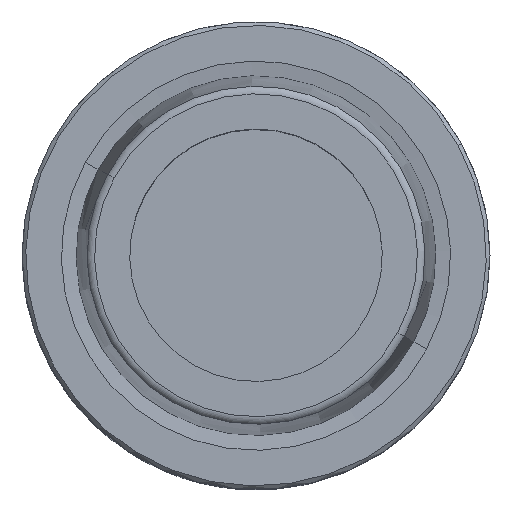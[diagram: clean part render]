
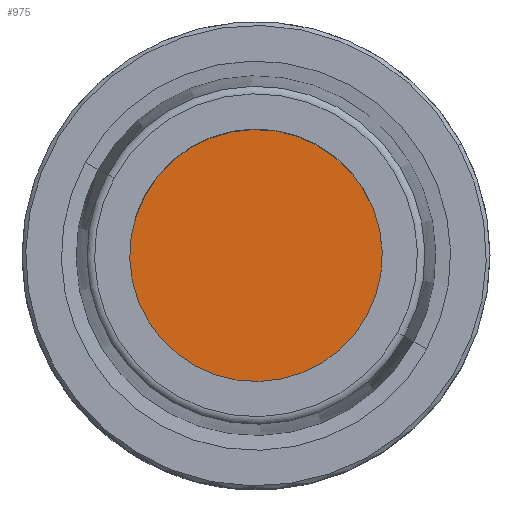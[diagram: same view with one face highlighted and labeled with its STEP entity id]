
A CAD part, top view. The second image highlights one B-rep face of the part: STEP entity #975.
In plain terms, the highlighted planar face has unit normal (0, 0, 1).
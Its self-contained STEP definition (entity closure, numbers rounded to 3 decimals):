
#887=AXIS2_PLACEMENT_3D('Circle Axis2P3D',#885,#886,$) ;
#913=AXIS2_PLACEMENT_3D('Circle Axis2P3D',#911,#912,$) ;
#969=AXIS2_PLACEMENT_3D('Plane Axis2P3D',#966,#967,#968) ;
#885=CARTESIAN_POINT('Axis2P3D Location',(0.,0.,-10.)) ;
#889=CARTESIAN_POINT('Vertex',(-14.919,8.15,-10.)) ;
#891=CARTESIAN_POINT('Vertex',(14.919,-8.15,-10.)) ;
#911=CARTESIAN_POINT('Axis2P3D Location',(0.,0.,-10.)) ;
#966=CARTESIAN_POINT('Axis2P3D Location',(-15.75,0.,-10.)) ;
#886=DIRECTION('Axis2P3D Direction',(0.,0.,-1.)) ;
#912=DIRECTION('Axis2P3D Direction',(0.,0.,-1.)) ;
#967=DIRECTION('Axis2P3D Direction',(0.,0.,-1.)) ;
#968=DIRECTION('Axis2P3D XDirection',(0.,1.,0.)) ;
#972=ORIENTED_EDGE('',*,*,#893,.T.) ;
#973=ORIENTED_EDGE('',*,*,#915,.T.) ;
#975=ADVANCED_FACE('NOCUT',(#974),#970,.F.) ;
#888=CIRCLE('generated circle',#887,17.) ;
#914=CIRCLE('generated circle',#913,17.) ;
#893=EDGE_CURVE('',#890,#892,#888,.F.) ;
#915=EDGE_CURVE('',#892,#890,#914,.F.) ;
#971=EDGE_LOOP('',(#972,#973)) ;
#974=FACE_OUTER_BOUND('',#971,.T.) ;
#970=PLANE('',#969) ;
#890=VERTEX_POINT('',#889) ;
#892=VERTEX_POINT('',#891) ;
